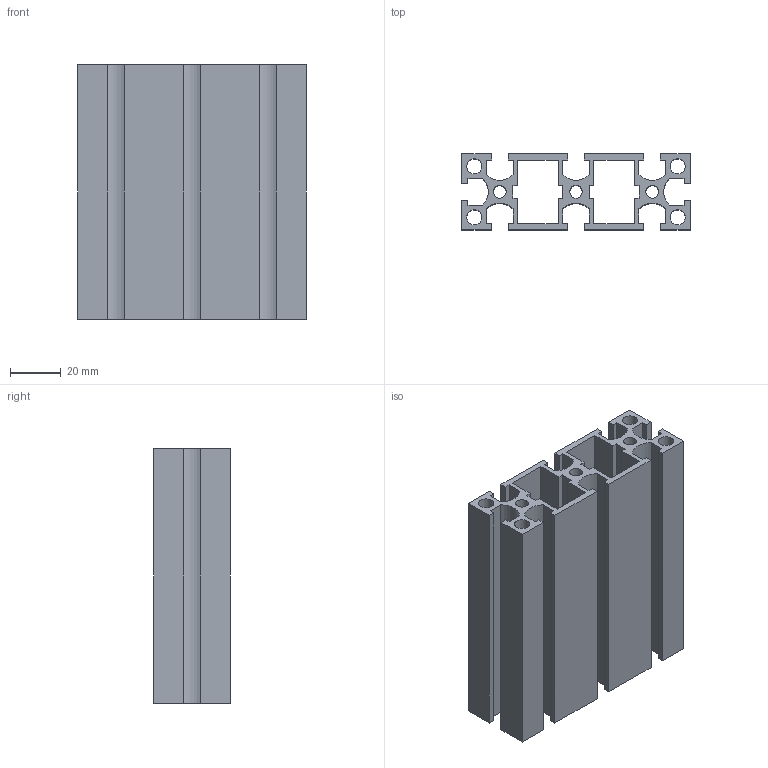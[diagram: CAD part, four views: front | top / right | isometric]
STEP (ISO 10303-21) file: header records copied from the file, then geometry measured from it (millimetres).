
FILE_DESCRIPTION(/* description */ ('Unknown'),/* implementation_level */ '2;1');
FILE_NAME(/* name */ 'NM3090',/* time_stamp */ '2026-08-31T11:17:53+08:00',/* author */ ('Unknown'),/* organization */ ('Unknown'),/* preprocessor_version */ 'ST-DEVELOPER v16.7',/* originating_system */ 'DEX',/* authorisation */ $);
FILE_SCHEMA (('AUTOMOTIVE_DESIGN {1 0 10303 214 3 1 1}'));
Length unit declared in the file: millimetre
Products named in the file (1): 3090-
Bounding box: 90 x 30 x 100 mm (x, y, z)
Volume: 94511.4 mm3; surface area: 76696.9 mm2
Topology: 1 solids, 1 shells, 101 faces, 297 edges, 198 vertices
Faces by surface type: plane 86, cylinder 15
Full cylindrical faces by diameter (mm): 5 x3, 6 x4
Entity records: 3352 total; most frequent: CARTESIAN_POINT 590, ORIENTED_EDGE 580, DIRECTION 524, EDGE_CURVE 290, LINE 260, VECTOR 260, VERTEX_POINT 198, AXIS2_PLACEMENT_3D 132
